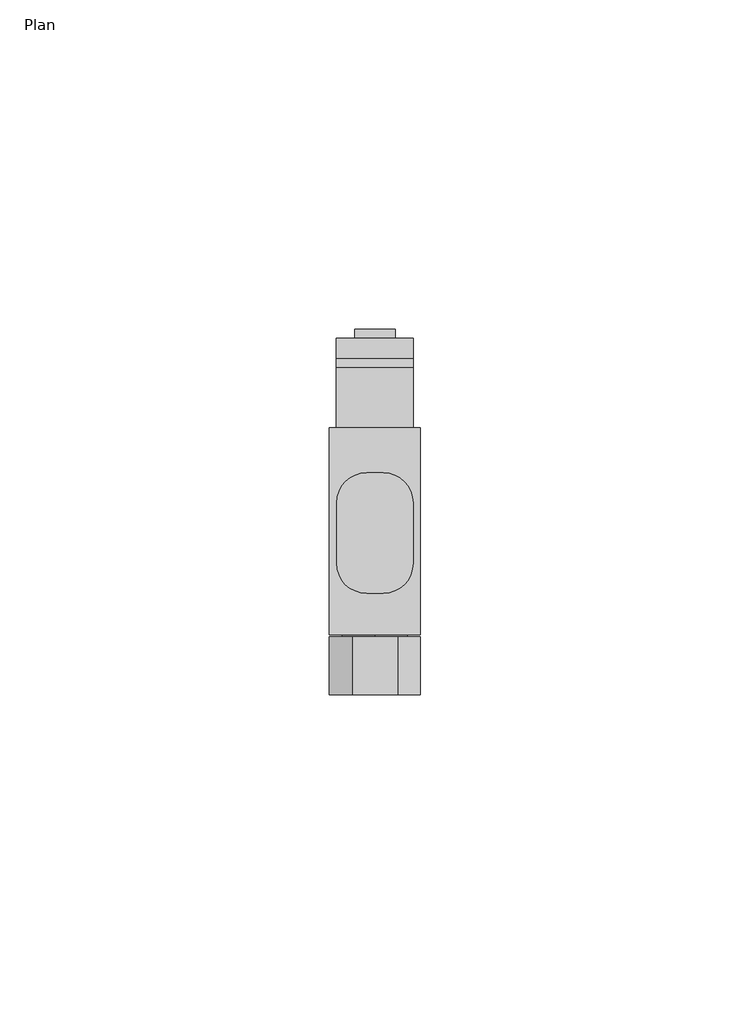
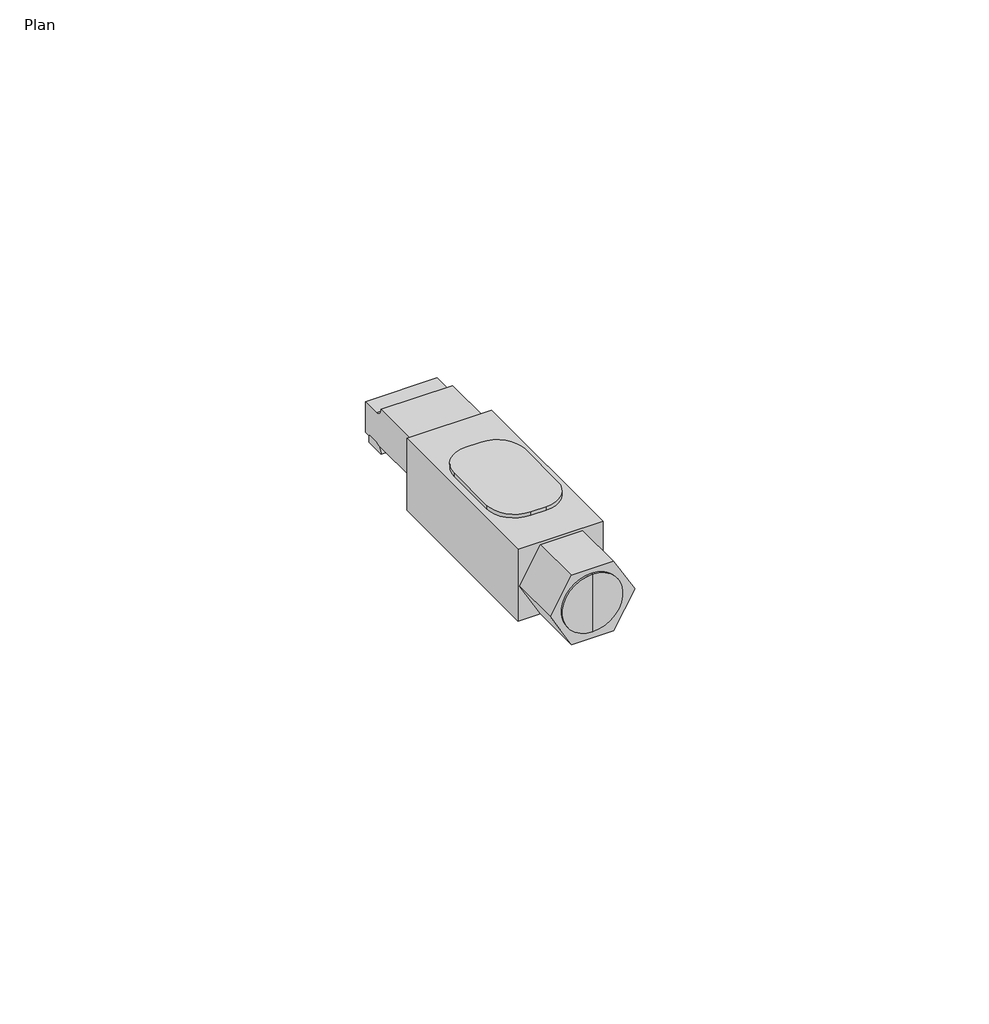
# One storey: 1 electric appliance.
"""IFC4 building model written with IfcOpenShell, lengths in millimetres."""

from ifc_helpers import new_model, si_unit, origin, place, context, project, spatial, transform, mapped, element, save
from components import cat_6a_universal_plug_rj45_b46e12e7

model = new_model("IFC4")

# Units and contexts
model_context = context("Model", 3, world=origin())
ifc_project = project(units=[si_unit("LENGTHUNIT", "METRE", prefix="MILLI")], contexts=[model_context])

# Site, building, storey
site = spatial("IfcSite", under=ifc_project)
building = spatial("IfcBuilding", under=site)
storey = spatial("IfcBuildingStorey", under=building, Name="Plan", Elevation=0.0)

# Electric appliance
placement = place(None, origin())
cat_6a_universal_plug_rj45_shape = cat_6a_universal_plug_rj45_b46e12e7(model_context)
element("IfcElectricAppliance", 1, ObjectType="Data_Device-Network-Leviton-Cat_6A-Plug : Cat 6A Universal Plug RJ45", at=placement, inside=storey, context=model_context, shape_type="MappedRepresentation", body=[
    mapped(cat_6a_universal_plug_rj45_shape, transform((2447.7329608, -780.1325522, 308.1801487), x_axis=(1.0, 0.0, 0.0), y_axis=(0.0, 0.0, 1.0), z_axis=(0.0, -1.0, 0.0))),
])

save(model, "model.ifc")
